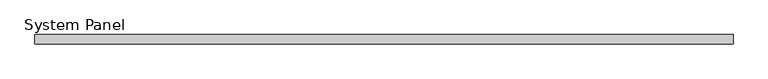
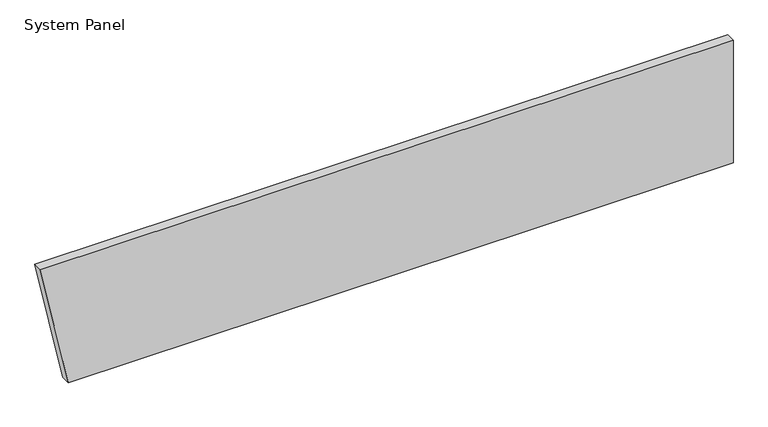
"""IFC4 building model written with IfcOpenShell, lengths in millimetres: plate geometry, System Panel : Inspire 80mm Horizontal - Plain RHEA-PIR."""

from ifc_helpers import new_model, si_unit, frame, origin, place, context, project, spatial, polyline, outline, extrude, source, transform, mapped, element, save


def system_panel_4131a554(model_context):
    return source(origin(), model_context, "Body", "SweptSolid", [
        extrude(outline(polyline([(0.0, -2709.5661783), (0.0, 2948.698535), (1100.0, 2948.698535), (1100.0, -2948.698535), (0.0, -2709.5661783)])), frame((0.0, -80.0, 0.0), z_axis=(0.0, 1.0, 0.0), x_axis=(0.0, 0.0, 1.0)), (0.0, 0.0, 1.0), 80.0),
    ])


if __name__ == "__main__":
    model = new_model("IFC4")
    model_context = context("Model", 3, world=origin())
    ifc_project = project(units=[si_unit("LENGTHUNIT", "METRE", prefix="MILLI")], contexts=[model_context])
    site = spatial("IfcSite", under=ifc_project)
    building = spatial("IfcBuilding", under=site)
    placement = place(None, origin())
    system_panel_shape = system_panel_4131a554(model_context)
    element("IfcPlate", 1, ObjectType="System Panel : Inspire 80mm Horizontal - Plain RHEA-PIR", at=placement, inside=building, context=model_context, shape_type="MappedRepresentation", body=[
        mapped(system_panel_shape, transform((0.0, 0.0, 0.0), x_axis=(1.0, 0.0, 0.0), y_axis=(0.0, 1.0, 0.0), z_axis=(0.0, 0.0, 1.0))),
    ])
    save(model, "model.ifc")
